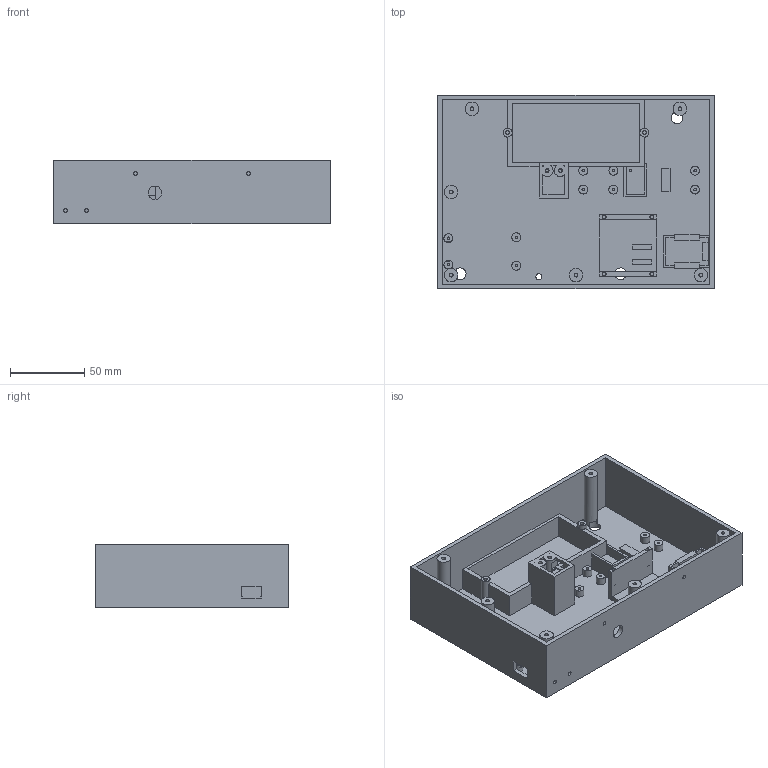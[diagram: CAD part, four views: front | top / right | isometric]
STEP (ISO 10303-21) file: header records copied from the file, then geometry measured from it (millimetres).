
FILE_DESCRIPTION(('Open CASCADE Model'),'2;1');
FILE_NAME('Open CASCADE Shape Model','2026-07-25T17:39:16',('Author'),( 'Open CASCADE'),'Open CASCADE STEP processor 7.9','build123d', 'Unknown');
FILE_SCHEMA(('AUTOMOTIVE_DESIGN { 1 0 10303 214 1 1 1 1 }'));
Length unit declared in the file: millimetre
Products named in the file (1): COMPOUND
Bounding box: 186 x 130 x 43 mm (x, y, z)
Volume: 201297.7 mm3; surface area: 124933 mm2
Topology: 1 solids, 1 shells, 383 faces, 972 edges, 647 vertices
Faces by surface type: plane 249, extrusion 75, cylinder 59
Full cylindrical faces by diameter (mm): 1.7 x11, 2.1 x2, 2.5 x17, 2.6 x2, 4 x1, 6 x9, 8 x3, 9 x7
Entity records: 25187 total; most frequent: CARTESIAN_POINT 6673, DIRECTION 2929, ORIENTED_EDGE 1944, PCURVE 1944, DEFINITIONAL_REPRESENTATION 1944, VECTOR 1890, LINE 1815, EDGE_CURVE 972
